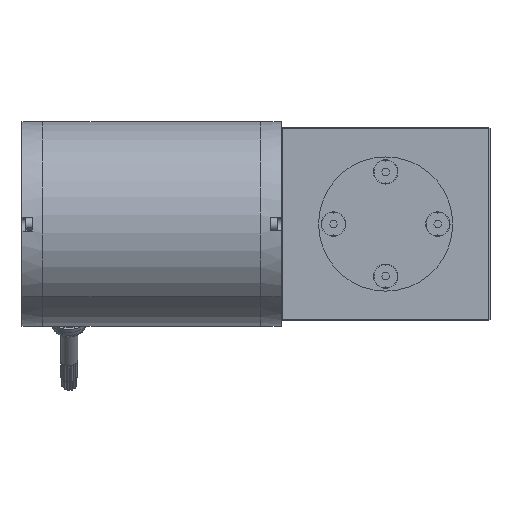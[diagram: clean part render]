
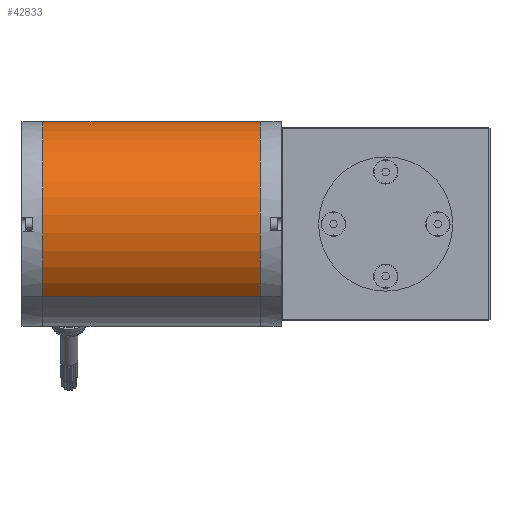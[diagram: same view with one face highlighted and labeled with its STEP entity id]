
A CAD part, left-side view. The second image highlights one B-rep face of the part: STEP entity #42833.
In plain terms, the highlighted cylindrical face has radius 43.69 mm (diameter 87.38 mm), a partial arc.
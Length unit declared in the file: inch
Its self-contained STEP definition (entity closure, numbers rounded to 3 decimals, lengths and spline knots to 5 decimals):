
#94 = CARTESIAN_POINT ( 'NONE',  ( 4.371, 9.22161, 1.05007 ) ) ;
#2943 = CARTESIAN_POINT ( 'NONE',  ( 3.15472, 5.57161, -0.16621 ) ) ;
#3435 = CIRCLE ( 'NONE', #31785, 1.72008 ) ;
#4448 = DIRECTION ( 'NONE',  ( 0., -1., 0. ) ) ;
#6938 = ORIENTED_EDGE ( 'NONE', *, *, #16813, .T. ) ;
#8611 = CARTESIAN_POINT ( 'NONE',  ( 4.371, 5.57161, 1.05007 ) ) ;
#9485 = DIRECTION ( 'NONE',  ( 0., 1., 0. ) ) ;
#9781 = ORIENTED_EDGE ( 'NONE', *, *, #16220, .F. ) ;
#12834 = LINE ( 'NONE', #48702, #33100 ) ;
#13123 = CARTESIAN_POINT ( 'NONE',  ( 5.58728, 0.7065, 2.26635 ) ) ;
#15040 = ORIENTED_EDGE ( 'NONE', *, *, #49019, .T. ) ;
#16160 = CARTESIAN_POINT ( 'NONE',  ( 5.58728, 9.22161, 2.26635 ) ) ;
#16220 = EDGE_CURVE ( 'NONE', #21064, #42488, #3435, .T. ) ;
#16813 = EDGE_CURVE ( 'NONE', #21064, #30577, #19050, .T. ) ;
#18816 = AXIS2_PLACEMENT_3D ( 'NONE', #94, #4448, #39426 ) ;
#18847 = DIRECTION ( 'NONE',  ( 0.707, 0., 0.707 ) ) ;
#19050 = LINE ( 'NONE', #13123, #52861 ) ;
#20554 = ORIENTED_EDGE ( 'NONE', *, *, #41049, .F. ) ;
#21064 = VERTEX_POINT ( 'NONE', #41079 ) ;
#22209 = CIRCLE ( 'NONE', #18816, 1.72008 ) ;
#22834 = DIRECTION ( 'NONE',  ( 0., 1., 0. ) ) ;
#29004 = CARTESIAN_POINT ( 'NONE',  ( 3.15472, 9.22161, -0.16621 ) ) ;
#30577 = VERTEX_POINT ( 'NONE', #16160 ) ;
#31785 = AXIS2_PLACEMENT_3D ( 'NONE', #8611, #38864, #43228 ) ;
#33100 = VECTOR ( 'NONE', #22834, 39.37008 ) ;
#38864 = DIRECTION ( 'NONE',  ( 0., -1., 0. ) ) ;
#39426 = DIRECTION ( 'NONE',  ( -0.707, 0., -0.707 ) ) ;
#41049 = EDGE_CURVE ( 'NONE', #42488, #41571, #12834, .T. ) ;
#41079 = CARTESIAN_POINT ( 'NONE',  ( 5.58728, 5.57161, 2.26635 ) ) ;
#41083 = FACE_OUTER_BOUND ( 'NONE', #42922, .T. ) ;
#41571 = VERTEX_POINT ( 'NONE', #29004 ) ;
#42488 = VERTEX_POINT ( 'NONE', #2943 ) ;
#42833 = ADVANCED_FACE ( 'NONE', ( #41083 ), #54658, .T. ) ;
#42922 = EDGE_LOOP ( 'NONE', ( #20554, #9781, #6938, #15040 ) ) ;
#43228 = DIRECTION ( 'NONE',  ( -0.707, 0., -0.707 ) ) ;
#47584 = CARTESIAN_POINT ( 'NONE',  ( 4.371, 0.7065, 1.05007 ) ) ;
#48702 = CARTESIAN_POINT ( 'NONE',  ( 3.15472, 0.7065, -0.16621 ) ) ;
#49019 = EDGE_CURVE ( 'NONE', #30577, #41571, #22209, .T. ) ;
#52131 = DIRECTION ( 'NONE',  ( 0., 1., 0. ) ) ;
#52261 = AXIS2_PLACEMENT_3D ( 'NONE', #47584, #52131, #18847 ) ;
#52861 = VECTOR ( 'NONE', #9485, 39.37008 ) ;
#54658 = CYLINDRICAL_SURFACE ( 'NONE', #52261, 1.72008 ) ;
